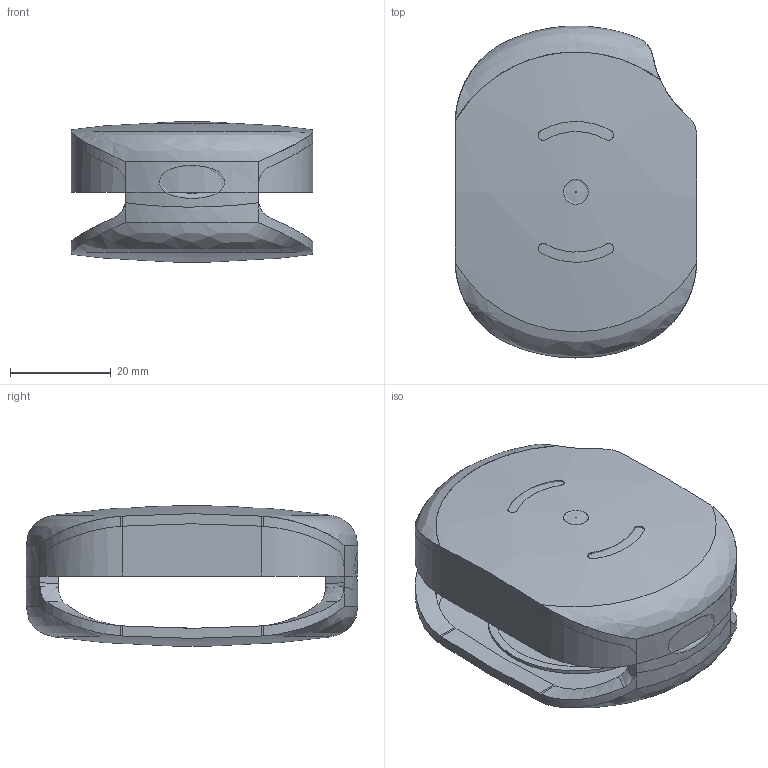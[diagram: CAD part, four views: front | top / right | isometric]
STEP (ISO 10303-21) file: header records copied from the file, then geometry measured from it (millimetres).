
FILE_DESCRIPTION(/* description */ (''),/* implementation_level */ '2;1');
FILE_NAME(/* name */ 'CP19_ZP.stp',/* time_stamp */ '2019-05-03T11:40:09+08:00',/* author */ (''),/* organization */ (''),/* preprocessor_version */ 'ST-DEVELOPER v16',/* originating_system */ 'SIEMENS PLM Software NX 10.0',/* authorisation */ '');
FILE_SCHEMA (('AUTOMOTIVE_DESIGN { 1 0 10303 214 3 1 1 1 }'));
Length unit declared in the file: millimetre
Products named in the file (1): CP19-3
Bounding box: 48 x 66 x 27.98 mm (x, y, z)
Volume: 48064.6 mm3; surface area: 22497.3 mm2
Topology: 3 solids, 3 shells, 205 faces, 496 edges, 311 vertices
Faces by surface type: bspline 101, plane 38, extrusion 32, cylinder 28, cone 4, sphere 2
Full cylindrical faces by diameter (mm): 16.8 x2, 20 x2, 31.8 x2, 35 x2
Entity records: 10899 total; most frequent: CARTESIAN_POINT 7144, ORIENTED_EDGE 960, EDGE_CURVE 480, B_SPLINE_CURVE_WITH_KNOTS 377, DIRECTION 351, VERTEX_POINT 307, EDGE_LOOP 237, ADVANCED_FACE 205
